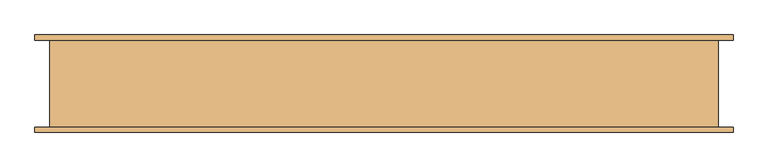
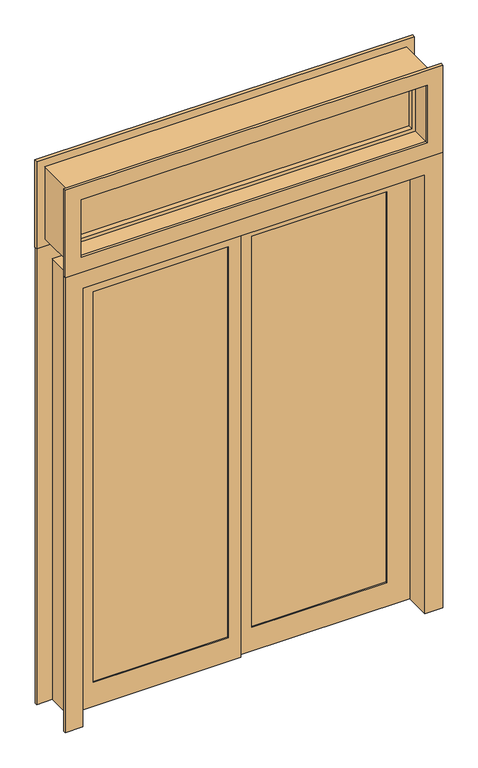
"""IFC4 building model written with IfcOpenShell, lengths in millimetres: door geometry, Pollard_Windows_Vistador Patio Doors_ATS_Rectangular : AVDR6080-ATS6016."""

import ifcopenshell
import ifcopenshell.guid

model = None  # the IFC model being written
_history = None  # IfcOwnerHistory: only IFC2X3 demands one
_inside = {}  # id of a spatial element -> (the spatial element, [elements in it])
_under = {}  # id of a project, library or spatial element -> (it, [spatial elements below it])
_declared = {}  # id of a project -> (the project, [libraries it declares])
_typed = {}  # id of a type object -> (the type object, [elements of that type])
_made_of = {}  # id of a material, layer set ... -> (it, [elements and type objects made of it])


def new_model(schema):
    """Start an empty IFC model of exactly this schema.

    Asked for "IFC4X3", IfcOpenShell would pick the latest addendum, in which some entities
    have other attributes; the version numbers below select the first issue.
    IFC2X3 requires an IfcOwnerHistory on every rooted entity: one is made here for all.
    """
    global model, _history
    if schema == "IFC4X3":
        model = ifcopenshell.file(schema_version=(4, 3, 0, 0))
    else:
        model = ifcopenshell.file(schema=schema)
    _inside.clear()
    _under.clear()
    _declared.clear()
    _typed.clear()
    _made_of.clear()
    _history = None
    if model.schema == "IFC2X3":
        org = make("IfcOrganization", Name="unknown")
        user = make(
            "IfcPersonAndOrganization",
            ThePerson=make("IfcPerson", FamilyName="unknown"),
            TheOrganization=org,
        )
        app = make(
            "IfcApplication",
            ApplicationDeveloper=org,
            Version="unknown",
            ApplicationFullName="unknown",
            ApplicationIdentifier="unknown",
        )
        _history = make(
            "IfcOwnerHistory",
            OwningUser=user,
            OwningApplication=app,
            ChangeAction="ADDED",
            CreationDate=0,
        )
    return model


def make(cls, **values):
    """One entity of the class cls with the attributes given. An attribute that is None is left unset."""
    return model.create_entity(
        cls, **{name: value for name, value in values.items() if value is not None}
    )


def rooted(cls, **values):
    """An entity with a GlobalId (a new one), such as an element, a storey or a relation."""
    return make(cls, GlobalId=ifcopenshell.guid.new(), OwnerHistory=_history, **values)


def si_unit(unit_type, name, prefix=None):
    """IfcSIUnit, for example si_unit("LENGTHUNIT", "METRE", prefix="MILLI")."""
    return make("IfcSIUnit", UnitType=unit_type, Prefix=prefix, Name=name)


def assignment(units):
    """IfcUnitAssignment: the units of a project."""
    return None if units is None else make("IfcUnitAssignment", Units=units)


def point(xyz):
    """IfcCartesianPoint."""
    return None if xyz is None else make("IfcCartesianPoint", Coordinates=xyz)


def direction(xyz):
    """IfcDirection."""
    return None if xyz is None else make("IfcDirection", DirectionRatios=xyz)


def frame(location, z_axis=None, x_axis=None):
    """IfcAxis2Placement3D, a coordinate frame: its origin and axes. An axis left out is left unset."""
    return make(
        "IfcAxis2Placement3D",
        Location=point(location),
        Axis=direction(z_axis),
        RefDirection=direction(x_axis),
    )


def origin():
    """The frame at (0, 0, 0) with its axes left unset."""
    return frame((0.0, 0.0, 0.0))


def place(relative_to, where):
    """IfcLocalPlacement: puts the frame where relative to a parent placement (None: the world)."""
    return make(
        "IfcLocalPlacement", PlacementRelTo=relative_to, RelativePlacement=where
    )


def context(
    kind, dimensions, precision=None, world=None, true_north=None, identifier=None
):
    """IfcGeometricRepresentationContext, for example the 3D "Model" context."""
    return make(
        "IfcGeometricRepresentationContext",
        ContextIdentifier=identifier,
        ContextType=kind,
        CoordinateSpaceDimension=dimensions,
        Precision=precision,
        WorldCoordinateSystem=world,
        TrueNorth=true_north,
    )


def project(units=None, contexts=None):
    """IfcProject with its units and contexts."""
    return rooted(
        "IfcProject",
        Name="project",
        RepresentationContexts=contexts,
        UnitsInContext=assignment(units),
    )


def spatial(cls, under=None, at=None, **own):
    """A site, building, storey or space (cls), placed at a placement, below another one or the project."""
    s = rooted(cls, ObjectPlacement=at, **own)
    if under is not None:
        _under.setdefault(under.id(), (under, []))[1].append(s)
    return s


def polyline(points):
    """IfcPolyline through the points."""
    return make("IfcPolyline", Points=[point(p) for p in points])


def outline(outer, holes=None, kind="AREA"):
    """IfcArbitraryClosedProfileDef: a profile drawn as a closed curve; with holes, ...WithVoids."""
    if holes is None:
        return make("IfcArbitraryClosedProfileDef", ProfileType=kind, OuterCurve=outer)
    return make(
        "IfcArbitraryProfileDefWithVoids",
        ProfileType=kind,
        OuterCurve=outer,
        InnerCurves=holes,
    )


def extrude(swept, where, along, depth):
    """IfcExtrudedAreaSolid: the profile swept, set in the frame where, extruded along a direction by depth."""
    return make(
        "IfcExtrudedAreaSolid",
        SweptArea=swept,
        Position=where,
        ExtrudedDirection=direction(along),
        Depth=depth,
    )


def faces_of(points, faces, orient=None, outer=None):
    """IfcFace entities. A face is a list of loops; a loop is a list of indices into points, from 0.

    orient and outer hold one flag for each loop. By default every Orientation is true, the
    first loop of a face is its IfcFaceOuterBound and the others are IfcFaceBound.
    """
    made = []
    for i, loops in enumerate(faces):
        bounds = []
        for j, loop in enumerate(loops):
            is_outer = j == 0 if outer is None else outer[i][j]
            bounds.append(
                make(
                    "IfcFaceOuterBound" if is_outer else "IfcFaceBound",
                    Bound=make("IfcPolyLoop", Polygon=[points[k] for k in loop]),
                    Orientation=True if orient is None else orient[i][j],
                )
            )
        made.append(make("IfcFace", Bounds=bounds))
    return made


def faceted_brep(points, faces, orient=None, outer=None, voids=None):
    """IfcFacetedBrep: a solid bounded by flat faces; with voids (closed shells), ...WithVoids."""
    shared = [point(p) for p in points]
    hull = make("IfcClosedShell", CfsFaces=faces_of(shared, faces, orient, outer))
    if voids is None:
        return make("IfcFacetedBrep", Outer=hull)
    return make(
        "IfcFacetedBrepWithVoids",
        Outer=hull,
        Voids=[
            make(cls, CfsFaces=faces_of(shared, fs, o, b)) for cls, fs, o, b in voids
        ],
    )


def shape(context_of_items, identifier, shape_type, items):
    """IfcShapeRepresentation: the items that make up one representation, for example the "Body"."""
    return make(
        "IfcShapeRepresentation",
        ContextOfItems=context_of_items,
        RepresentationIdentifier=identifier,
        RepresentationType=shape_type,
        Items=items,
    )


def source(mapping_origin, context_of_items, identifier, shape_type, items):
    """IfcRepresentationMap: a shape defined once, which mapped items show again and again."""
    return make(
        "IfcRepresentationMap",
        MappingOrigin=mapping_origin,
        MappedRepresentation=shape(context_of_items, identifier, shape_type, items),
    )


def transform(
    local_origin,
    x_axis=None,
    y_axis=None,
    z_axis=None,
    scale=None,
    scale2=None,
    scale3=None,
    uniform=True,
):
    """IfcCartesianTransformationOperator3D, or its non-uniform kind. x_axis, y_axis, z_axis: its Axis1, 2, 3."""
    if uniform:
        return make(
            "IfcCartesianTransformationOperator3D",
            Axis1=direction(x_axis),
            Axis2=direction(y_axis),
            LocalOrigin=point(local_origin),
            Scale=scale,
            Axis3=direction(z_axis),
        )
    return make(
        "IfcCartesianTransformationOperator3DnonUniform",
        Axis1=direction(x_axis),
        Axis2=direction(y_axis),
        LocalOrigin=point(local_origin),
        Scale=scale,
        Axis3=direction(z_axis),
        Scale2=scale2,
        Scale3=scale3,
    )


def mapped(mapping_source, mapping_target):
    """IfcMappedItem: shows the shape of a source again, moved by a transform."""
    return make(
        "IfcMappedItem", MappingSource=mapping_source, MappingTarget=mapping_target
    )


def made_of(thing, what):
    """Note that an element or type object is made of a material, layer set ...; save() writes the relation."""
    if what is not None:
        _made_of.setdefault(what.id(), (what, []))[1].append(thing)
    return thing


def element(
    cls,
    number,
    at=None,
    inside=None,
    cuts=None,
    type_object=None,
    material=None,
    context=None,
    identifier="Body",
    shape_type=None,
    held_by="IfcProductDefinitionShape",
    body=None,
    shapes=None,
    **own,
):
    """One element of the class cls, such as IfcWall. Its Tag is "e" and its number.

    at: its placement. inside: the storey or other place that contains it. cuts: it is an
    opening in that element (IfcRelVoidsElement). A single representation is given by context,
    identifier, shape_type and body (its items); several are given by shapes. held_by: the class
    of the entity that holds the representations. save() writes the other relations.
    """
    e = rooted(cls, Tag="e%d" % number, ObjectPlacement=at, **own)
    if body is not None:
        shapes = [shape(context, identifier, shape_type, body)]
    if shapes is not None:
        e.Representation = make(held_by, Representations=shapes)
    if inside is not None:
        _inside.setdefault(inside.id(), (inside, []))[1].append(e)
    if cuts is not None:
        rooted(
            "IfcRelVoidsElement", RelatingBuildingElement=cuts, RelatedOpeningElement=e
        )
    if type_object is not None:
        _typed.setdefault(type_object.id(), (type_object, []))[1].append(e)
    return made_of(e, material)


def aggregate(whole, parts):
    """IfcRelAggregates: a whole, such as a stair, and the parts it consists of."""
    return rooted("IfcRelAggregates", RelatingObject=whole, RelatedObjects=parts)


def save(model, path):
    """Write the relations noted so far, then the file.

    IfcRelAggregates (storeys below a building ...), IfcRelContainedInSpatialStructure (elements
    in a storey), IfcRelDefinesByType, IfcRelAssociatesMaterial and IfcRelDeclares: one each for
    every whole, place, type object, material and project.
    """
    for whole, parts in _under.values():
        aggregate(whole, parts)
    for where, things in _inside.values():
        rooted(
            "IfcRelContainedInSpatialStructure",
            RelatedElements=things,
            RelatingStructure=where,
        )
    for kind, things in _typed.values():
        rooted("IfcRelDefinesByType", RelatedObjects=things, RelatingType=kind)
    for what, things in _made_of.values():
        rooted("IfcRelAssociatesMaterial", RelatedObjects=things, RelatingMaterial=what)
    for by, libraries in _declared.values():
        rooted("IfcRelDeclares", RelatingContext=by, RelatedDefinitions=libraries)
    model.write(path)


def door_0f02b388(model_context):
    return source(origin(), model_context, "Body", "SolidModel", [
        extrude(outline(polyline([(2487.549, 818.2864), (2487.549, -818.2864), (2087.499, -818.2864), (2087.499, 818.2864), (2487.549, 818.2864)]), holes=[polyline([(2155.698, 750.0874), (2155.698, -750.0874), (2419.35, -750.0874), (2419.35, 750.0874), (2155.698, 750.0874)])]), frame((0.0, 101.6, 0.0), z_axis=(0.0, 1.0, 0.0), x_axis=(0.0, 0.0, 1.0)), (0.0, 0.0, 1.0), 12.7),
        extrude(outline(polyline([(-750.0874, 2.5), (750.0874, 2.5), (750.0874, -2.5), (-750.0874, -2.5), (-750.0874, 2.5)])), frame((0.0, 0.0, 2155.698), z_axis=(0.0, 0.0, 1.0), x_axis=(1.0, 0.0, 0.0)), (0.0, 0.0, 1.0), 263.652),
        faceted_brep([(734.5339909, -2.5, 2403.7965909), (734.5339909, -25.4, 2403.7965909), (-734.5339909, -25.4, 2403.7965909), (-734.5339909, -2.5, 2403.7965909), (747.2339909, 2.5, 2416.4965909), (747.2339909, -2.5, 2416.4965909), (-747.2339909, -2.5, 2416.4965909), (-747.2339909, 2.5, 2416.4965909), (734.5339909, 25.4, 2403.7965909), (734.5339909, 2.5, 2403.7965909), (-734.5339909, 2.5, 2403.7965909), (-734.5339909, 25.4, 2403.7965909), (770.4074, -25.4, 2439.67), (770.4074, 25.4, 2439.67), (-770.4074, 25.4, 2439.67), (-770.4074, -25.4, 2439.67), (-734.5339909, -25.4, 2171.2514091), (-734.5339909, -2.5, 2171.2514091), (-747.2339909, -2.5, 2158.5514091), (-747.2339909, 2.5, 2158.5514091), (-734.5339909, 2.5, 2171.2514091), (-734.5339909, 25.4, 2171.2514091), (-770.4074, 25.4, 2135.378), (-770.4074, -25.4, 2135.378), (734.5339909, -25.4, 2171.2514091), (734.5339909, -2.5, 2171.2514091), (747.2339909, -2.5, 2158.5514091), (747.2339909, 2.5, 2158.5514091), (734.5339909, 2.5, 2171.2514091), (734.5339909, 25.4, 2171.2514091), (770.4074, 25.4, 2135.378), (770.4074, -25.4, 2135.378)], [[[0, 1, 2, 3]], [[4, 5, 6, 7]], [[8, 9, 10, 11]], [[12, 13, 14, 15]], [[3, 2, 16, 17]], [[7, 6, 18, 19]], [[11, 10, 20, 21]], [[15, 14, 22, 23]], [[17, 16, 24, 25]], [[19, 18, 26, 27]], [[21, 20, 28, 29]], [[23, 22, 30, 31]], [[25, 24, 1, 0]], [[5, 26, 18, 6], [3, 17, 25, 0]], [[27, 26, 5, 4]], [[7, 19, 27, 4], [9, 28, 20, 10]], [[29, 28, 9, 8]], [[13, 30, 22, 14], [11, 21, 29, 8]], [[31, 30, 13, 12]], [[15, 23, 31, 12], [1, 24, 16, 2]]]),
        faceted_brep([(-750.0874, -25.4, 2419.35), (-750.0874, -101.6, 2419.35), (-750.0874, -101.6, 2155.698), (-750.0874, -25.4, 2155.698), (-750.0874, 101.6, 2419.35), (-750.0874, 25.4, 2419.35), (-750.0874, 25.4, 2155.698), (-750.0874, 101.6, 2155.698), (-783.1074, -101.6, 2452.37), (-783.1074, 101.6, 2452.37), (-783.1074, 101.6, 2122.678), (-783.1074, -101.6, 2122.678), (750.0874, -101.6, 2155.698), (750.0874, -25.4, 2155.698), (750.0874, 25.4, 2155.698), (750.0874, 101.6, 2155.698), (783.1074, 101.6, 2122.678), (783.1074, -101.6, 2122.678), (750.0874, -101.6, 2419.35), (750.0874, -25.4, 2419.35), (750.0874, 25.4, 2419.35), (750.0874, 101.6, 2419.35), (783.1074, 101.6, 2452.37), (783.1074, -101.6, 2452.37), (-770.4074, -25.4, 2439.67), (770.4074, -25.4, 2439.67), (770.4074, -25.4, 2135.378), (-770.4074, -25.4, 2135.378), (-770.4074, 25.4, 2135.378), (770.4074, 25.4, 2135.378), (770.4074, 25.4, 2439.67), (-770.4074, 25.4, 2439.67)], [[[0, 1, 2, 3]], [[4, 5, 6, 7]], [[8, 9, 10, 11]], [[3, 2, 12, 13]], [[7, 6, 14, 15]], [[11, 10, 16, 17]], [[13, 12, 18, 19]], [[15, 14, 20, 21]], [[17, 16, 22, 23]], [[11, 17, 23, 8], [1, 18, 12, 2]], [[19, 18, 1, 0]], [[24, 25, 26, 27], [3, 13, 19, 0]], [[28, 29, 30, 31], [5, 20, 14, 6]], [[21, 20, 5, 4]], [[9, 22, 16, 10], [7, 15, 21, 4]], [[23, 22, 9, 8]], [[31, 24, 27, 28]], [[28, 27, 26, 29]], [[29, 26, 25, 30]], [[30, 25, 24, 31]]]),
        extrude(outline(polyline([(2487.549, 818.2864), (2487.549, -818.2864), (2087.499, -818.2864), (2087.499, 818.2864), (2487.549, 818.2864)]), holes=[polyline([(2419.35, 750.0874), (2155.698, 750.0874), (2155.698, -750.0874), (2419.35, -750.0874), (2419.35, 750.0874)])]), frame((0.0, -114.3, 0.0), z_axis=(0.0, 1.0, 0.0), x_axis=(0.0, 0.0, 1.0)), (0.0, 0.0, 1.0), 12.7),
        extrude(outline(polyline([(-54.991, -10.0399998), (-640.1054, -10.0399998), (-640.1054, -4.9599998), (-54.991, -4.9599998), (-54.991, -10.0399998)])), frame((0.0, 0.0, 109.982), z_axis=(0.0, 0.0, 1.0), x_axis=(1.0, 0.0, 0.0)), (0.0, 0.0, 1.0), 1790.586),
        extrude(outline(polyline([(54.991, 10.0399998), (640.1054, 10.0399998), (640.1054, 4.9599998), (54.991, 4.9599998), (54.991, 10.0399998)])), frame((0.0, 0.0, 109.982), z_axis=(0.0, 0.0, 1.0), x_axis=(1.0, 0.0, 0.0)), (0.0, 0.0, 1.0), 1790.586),
        extrude(outline(polyline([(2010.55, 741.3374), (2010.55, 0.0), (0.0, 0.0), (0.0, 741.3374), (2010.55, 741.3374)]), holes=[polyline([(109.982, 640.1054), (109.982, 54.991), (1900.568, 54.991), (1900.568, 640.1054), (109.982, 640.1054)])]), frame((0.0, 0.0, 0.0), z_axis=(0.0, 1.0, 0.0), x_axis=(0.0, 0.0, 1.0)), (0.0, 0.0, 1.0), 14.9999996),
        extrude(outline(polyline([(2010.55, -741.3374), (0.0, -741.3374), (0.0, 0.0), (2010.55, 0.0), (2010.55, -741.3374)]), holes=[polyline([(1900.568, -640.1054), (1900.568, -54.991), (109.982, -54.991), (109.982, -640.1054), (1900.568, -640.1054)])]), frame((0.0, -14.9999996, 0.0), z_axis=(0.0, 1.0, 0.0), x_axis=(0.0, 0.0, 1.0)), (0.0, 0.0, 1.0), 14.9999996),
        faceted_brep([(818.2864, 111.6, 0.0), (818.2864, 101.6, 0.0), (750.0874, 101.6, 0.0), (750.0874, -101.6, 0.0), (818.2864, -101.6, 0.0), (818.2864, -111.6, 0.0), (741.3374, -111.6, 0.0), (741.3374, 111.6, 0.0), (818.2864, 111.6, 2087.499), (818.2864, 101.6, 2087.499), (-818.2864, 101.6, 2087.499), (-818.2864, 101.6, 0.0), (-750.0874, 101.6, 0.0), (-750.0874, 101.6, 2019.3), (750.0874, 101.6, 2019.3), (750.0874, -101.6, 2019.3), (-750.0874, -101.6, 2019.3), (-750.0874, -101.6, 0.0), (-818.2864, -101.6, 0.0), (-818.2864, -101.6, 2087.499), (818.2864, -101.6, 2087.499), (818.2864, -111.6, 2087.499), (-818.2864, -111.6, 2087.499), (-818.2864, -111.6, 0.0), (-741.3374, -111.6, 0.0), (-741.3374, -111.6, 2010.55), (741.3374, -111.6, 2010.55), (741.3374, 111.6, 2010.55), (-741.3374, 111.6, 2010.55), (-741.3374, 111.6, 0.0), (-818.2864, 111.6, 0.0), (-818.2864, 111.6, 2087.499)], [[[0, 1, 2, 3, 4, 5, 6, 7]], [[1, 0, 8, 9]], [[2, 1, 9, 10, 11, 12, 13, 14]], [[2, 14, 15, 3]], [[4, 3, 15, 16, 17, 18, 19, 20]], [[5, 4, 20, 21]], [[6, 5, 21, 22, 23, 24, 25, 26]], [[6, 26, 27, 7]], [[0, 7, 27, 28, 29, 30, 31, 8]], [[30, 29, 24, 23, 18, 17, 12, 11]], [[28, 25, 24, 29]], [[22, 19, 18, 23]], [[16, 13, 12, 17]], [[10, 31, 30, 11]], [[9, 8, 31, 10]], [[27, 26, 25, 28]], [[15, 14, 13, 16]], [[21, 20, 19, 22]]]),
    ])


if __name__ == "__main__":
    model = new_model("IFC4")
    model_context = context("Model", 3, world=origin())
    ifc_project = project(units=[si_unit("LENGTHUNIT", "METRE", prefix="MILLI")], contexts=[model_context])
    site = spatial("IfcSite", under=ifc_project)
    building = spatial("IfcBuilding", under=site)
    placement = place(None, origin())
    door_shape = door_0f02b388(model_context)
    element("IfcDoor", 1, ObjectType="Pollard_Windows_Vistador Patio Doors_ATS_Rectangular : AVDR6080-ATS6016", at=placement, inside=building, context=model_context, shape_type="MappedRepresentation", body=[
        mapped(door_shape, transform((0.0, 0.0, 0.0), x_axis=(1.0, 0.0, 0.0), y_axis=(0.0, 1.0, 0.0), z_axis=(0.0, 0.0, 1.0))),
    ])
    save(model, "model.ifc")
